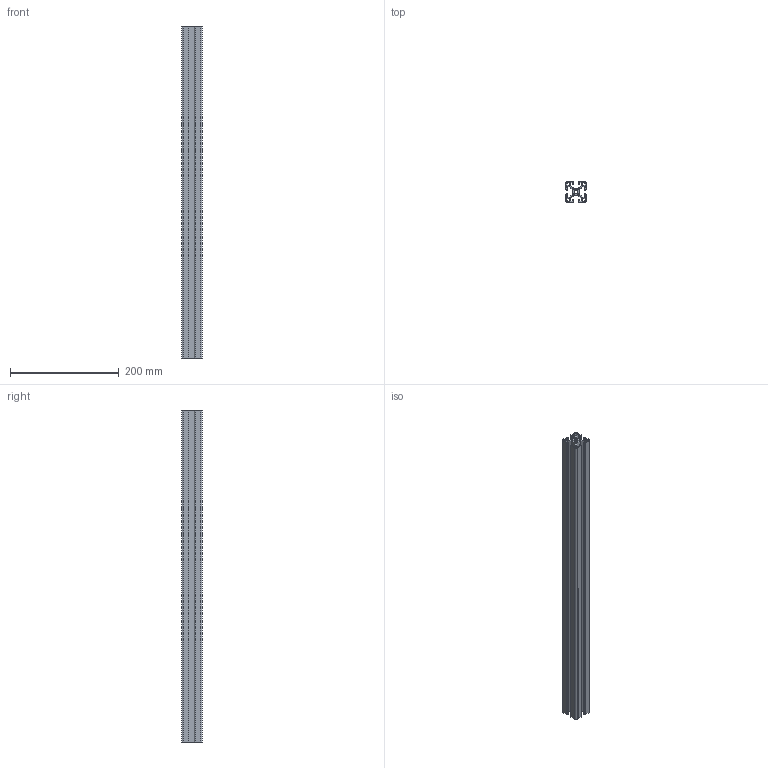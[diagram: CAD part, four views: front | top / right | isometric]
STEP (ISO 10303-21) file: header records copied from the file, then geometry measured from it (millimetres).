
FILE_DESCRIPTION(/* description */ ('STEP AP214'),/* implementation_level */ '2;1');
FILE_NAME(/* name */ '1515-ULS-24-CL',/* time_stamp */ '2023-08-13T18:32:43+02:00',/* author */ ('License CC BY-ND 4.0'),/* organization */ ('CADENAS'),/* preprocessor_version */ 'ST-DEVELOPER v19.3',/* originating_system */ 'PARTsolutions',/* authorisation */ ' ');
FILE_SCHEMA (('AUTOMOTIVE_DESIGN {1 0 10303 214 3 1 1}'));
Length unit declared in the file: inch
Products named in the file (1): 1515-ULS-24-CL
Bounding box: 38.1 x 38.1 x 609.6 mm (x, y, z)
Volume: 306921.4 mm3; surface area: 282963.5 mm2
Topology: 1 solids, 1 shells, 186 faces, 552 edges, 368 vertices
Faces by surface type: plane 94, cylinder 92
Entity records: 6332 total; most frequent: DIRECTION 1110, CARTESIAN_POINT 1107, ORIENTED_EDGE 1104, EDGE_CURVE 552, AXIS2_PLACEMENT_3D 371, LINE 368, VECTOR 368, VERTEX_POINT 368
